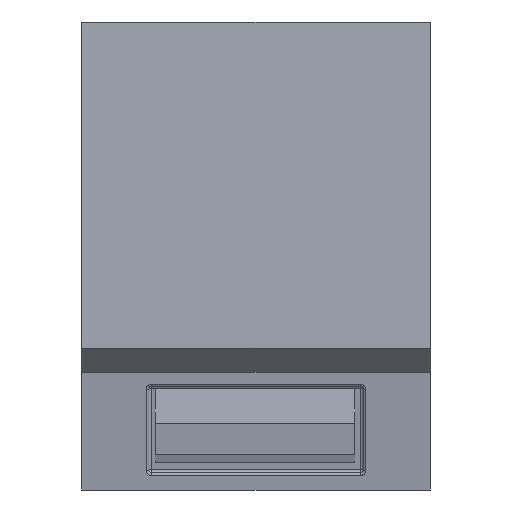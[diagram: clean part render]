
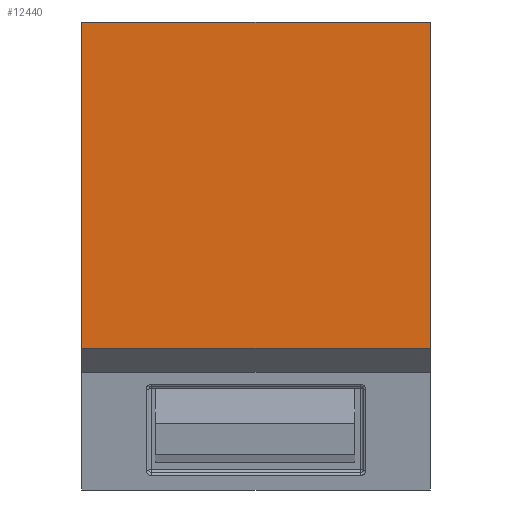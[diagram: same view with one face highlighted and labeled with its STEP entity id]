
A CAD part, front view. The second image highlights one B-rep face of the part: STEP entity #12440.
In plain terms, the highlighted planar face has unit normal (0, -1, 0).
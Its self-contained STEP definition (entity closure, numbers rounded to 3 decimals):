
#128 = EDGE_LOOP ( 'NONE', ( #7557, #9858, #4859, #7334 ) ) ;
#1143 = DIRECTION ( 'NONE',  ( 0., 0., 1. ) ) ;
#1340 = LINE ( 'NONE', #11665, #4131 ) ;
#1682 = CARTESIAN_POINT ( 'NONE',  ( 35., 0., -36. ) ) ;
#1742 = CARTESIAN_POINT ( 'NONE',  ( 35., 0., 29.5 ) ) ;
#1825 = AXIS2_PLACEMENT_3D ( 'NONE', #7642, #2549, #6629 ) ;
#2288 = DIRECTION ( 'NONE',  ( -1., 0., 0. ) ) ;
#2374 = CARTESIAN_POINT ( 'NONE',  ( -35., 0., 29.5 ) ) ;
#2538 = EDGE_CURVE ( 'NONE', #4168, #9568, #11945, .T. ) ;
#2549 = DIRECTION ( 'NONE',  ( 0., -1., 0. ) ) ;
#2563 = VERTEX_POINT ( 'NONE', #1682 ) ;
#3415 = EDGE_CURVE ( 'NONE', #8618, #9568, #3741, .T. ) ;
#3556 = FACE_OUTER_BOUND ( 'NONE', #128, .T. ) ;
#3741 = LINE ( 'NONE', #5617, #9776 ) ;
#4131 = VECTOR ( 'NONE', #2288, 1000. ) ;
#4168 = VERTEX_POINT ( 'NONE', #8923 ) ;
#4859 = ORIENTED_EDGE ( 'NONE', *, *, #7163, .T. ) ;
#5617 = CARTESIAN_POINT ( 'NONE',  ( -35., 0., 0. ) ) ;
#6162 = CARTESIAN_POINT ( 'NONE',  ( 35., 0., 0. ) ) ;
#6629 = DIRECTION ( 'NONE',  ( 0., 0., -1. ) ) ;
#6764 = PLANE ( 'NONE',  #1825 ) ;
#7163 = EDGE_CURVE ( 'NONE', #2563, #4168, #11267, .T. ) ;
#7334 = ORIENTED_EDGE ( 'NONE', *, *, #2538, .T. ) ;
#7557 = ORIENTED_EDGE ( 'NONE', *, *, #3415, .F. ) ;
#7642 = CARTESIAN_POINT ( 'NONE',  ( 35., 0., 0. ) ) ;
#7924 = VECTOR ( 'NONE', #1143, 1000. ) ;
#8618 = VERTEX_POINT ( 'NONE', #9829 ) ;
#8923 = CARTESIAN_POINT ( 'NONE',  ( 35., 0., 29.5 ) ) ;
#9111 = DIRECTION ( 'NONE',  ( -1., 0., 0. ) ) ;
#9568 = VERTEX_POINT ( 'NONE', #2374 ) ;
#9776 = VECTOR ( 'NONE', #12814, 1000. ) ;
#9829 = CARTESIAN_POINT ( 'NONE',  ( -35., 0., -36. ) ) ;
#9858 = ORIENTED_EDGE ( 'NONE', *, *, #11270, .F. ) ;
#11267 = LINE ( 'NONE', #6162, #7924 ) ;
#11270 = EDGE_CURVE ( 'NONE', #2563, #8618, #1340, .T. ) ;
#11665 = CARTESIAN_POINT ( 'NONE',  ( 35., 0., -36. ) ) ;
#11945 = LINE ( 'NONE', #1742, #13200 ) ;
#12440 = ADVANCED_FACE ( 'NONE', ( #3556 ), #6764, .T. ) ;
#12814 = DIRECTION ( 'NONE',  ( 0., 0., 1. ) ) ;
#13200 = VECTOR ( 'NONE', #9111, 1000. ) ;
